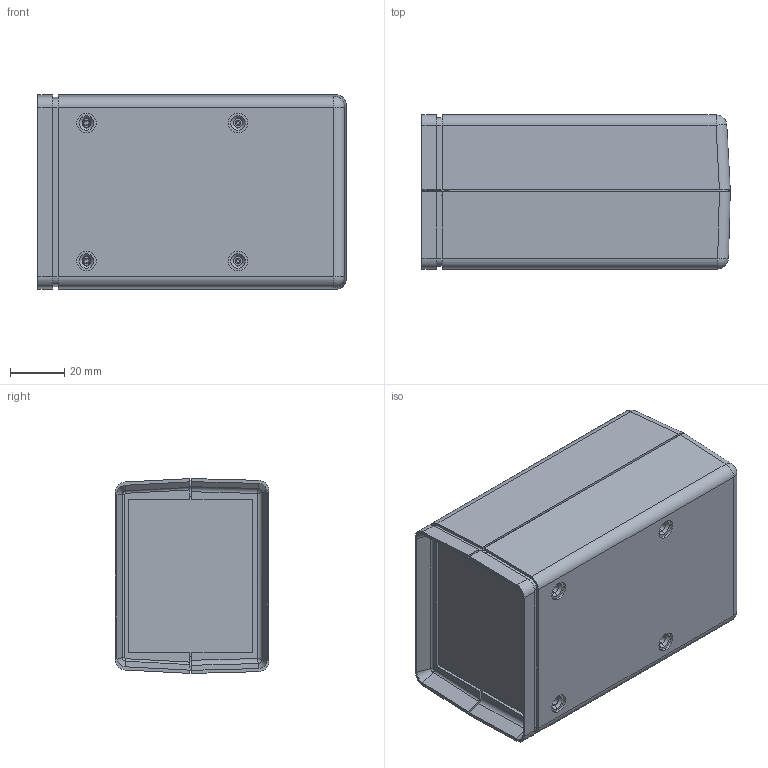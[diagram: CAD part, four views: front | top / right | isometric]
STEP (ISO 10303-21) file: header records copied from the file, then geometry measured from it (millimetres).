
FILE_DESCRIPTION (( 'STEP AP214' ), '1' );
FILE_NAME ('UOCS-223.STEP', '2020-05-22T22:34:09', ( 'Rudy' ), ( '' ), 'SwSTEP 2.0', 'SolidWorks 2014', '' );
FILE_SCHEMA (( 'AUTOMOTIVE_DESIGN' ));
Length unit declared in the file: inch
Products named in the file (4): UOCS-223; UOCS Deep Bottom; UOCS-Deep Top; UOCS-L
Assembly tree (3 placements, depth 2):
  UOCS-223
    UOCS Deep Bottom
    UOCS-Deep Top
    UOCS-L
Bounding box: 114 x 56.9 x 72 mm (x, y, z)
Volume: 107871.3 mm3; surface area: 82773.4 mm2
Topology: 3 solids, 3 shells, 540 faces, 1409 edges, 912 vertices
Faces by surface type: plane 343, cylinder 121, cone 48, bspline 20, sphere 4, torus 4
Entity records: 17982 total; most frequent: CARTESIAN_POINT 4506, ORIENTED_EDGE 2806, DIRECTION 2701, EDGE_CURVE 1403, VECTOR 1005, LINE 1005, VERTEX_POINT 912, AXIS2_PLACEMENT_3D 848
